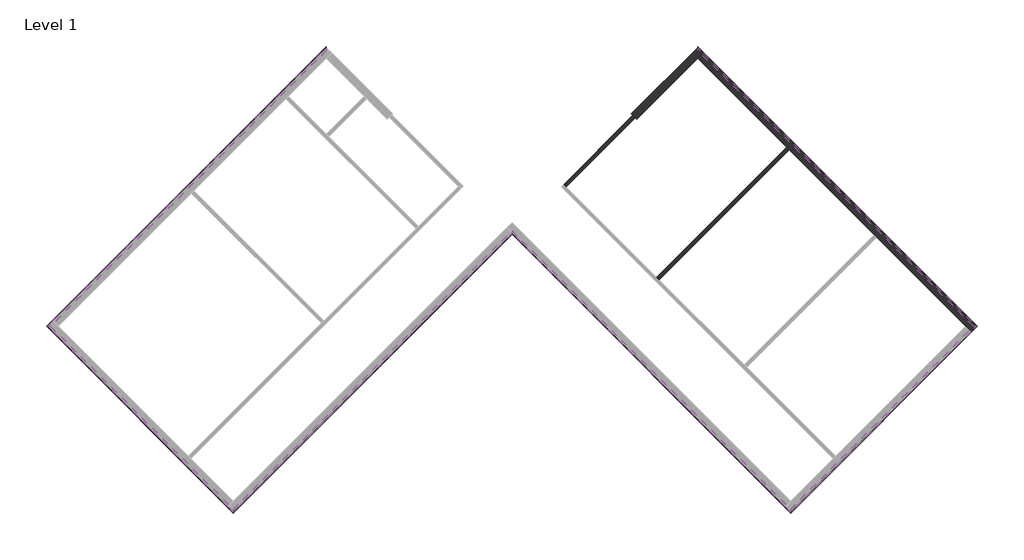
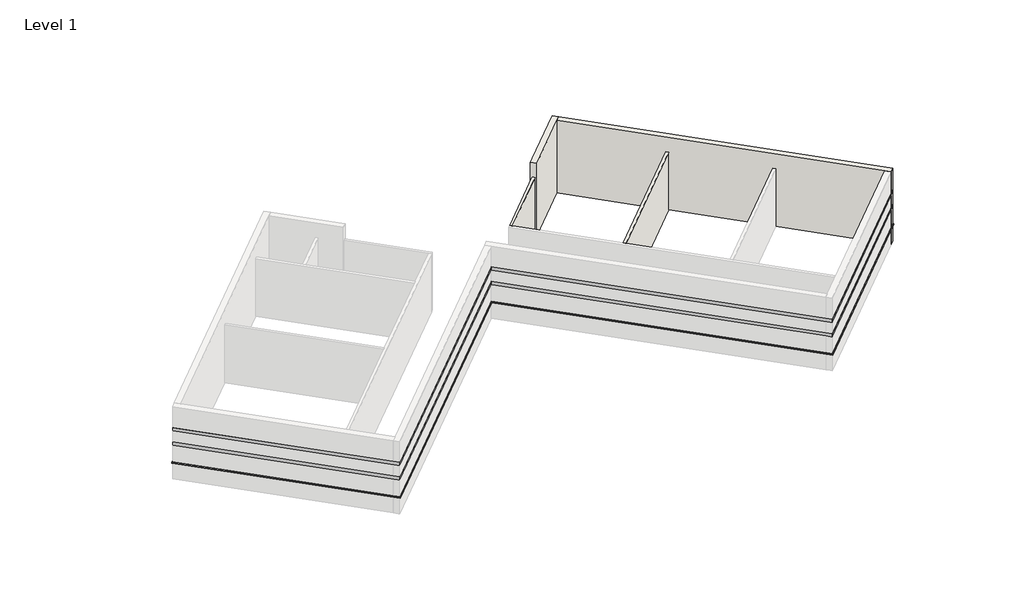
# One storey, part 2 of 2: 18 proxies, 4 walls.
"""IFC4 building model written with IfcOpenShell, lengths in millimetres."""

from ifc_helpers import new_model, si_unit, point, frame, frame_2d, origin, origin_with_axes, place, context, project, spatial, polyline, circle_curve, trimmed, segment, composite_curve, outline, extrude, faceted_brep, element, save
from ifc_brep_helpers import plane_surface, cylinder_surface, revolved_surface, advanced_brep

model = new_model("IFC4")

# Units and contexts
model_context = context("Model", 3, world=origin())
ifc_project = project(units=[si_unit("LENGTHUNIT", "METRE", prefix="MILLI")], contexts=[model_context])

# Site, building, storey
site = spatial("IfcSite", under=ifc_project)
building = spatial("IfcBuilding", under=site)
storey = spatial("IfcBuildingStorey", under=building, Name="Level 1", Elevation=0.0)

# Proxies
placement = place(None, origin())
element("IfcBuildingElementProxy", 1, Name="Wall Sweeps", at=placement, inside=storey, context=model_context, shape_type="Brep", body=[
    faceted_brep([(5753.0175119, 11443.3655905, 1085.85), (5753.0175119, 11573.5793042, 1085.85), (5753.0175119, 11622.9707129, 1041.4), (5753.0175119, 11622.9707129, 1016.0), (5753.0175119, 11443.3655905, 1016.0), (18554.3726125, -1357.9895101, 1085.85), (18554.3726125, -1357.9895101, 1016.0), (18733.9777349, -1357.9895101, 1016.0), (18733.9777349, -1357.9895101, 1041.4), (18684.5863263, -1357.9895101, 1085.85)], [[[0, 1, 2, 3, 4]], [[5, 6, 7, 8, 9]], [[1, 0, 5, 9]], [[2, 1, 9, 8]], [[3, 2, 8, 7]], [[4, 3, 7, 6]], [[0, 4, 6, 5]]]),
])
element("IfcBuildingElementProxy", 2, Name="Wall Sweeps", at=placement, inside=storey, context=model_context, shape_type="Brep", body=[
    faceted_brep([(5753.0175119, 11573.5793042, 2336.8), (5753.0175119, 11573.5793042, 2133.6), (5753.0175119, 11443.3655905, 2133.6), (5753.0175119, 11443.3655905, 2336.8), (18684.5863263, -1357.9895101, 2336.8), (18554.3726125, -1357.9895101, 2336.8), (18554.3726125, -1357.9895101, 2133.6), (18684.5863263, -1357.9895101, 2133.6), (6002.2196193, 11324.3771969, 2336.8), (6002.2196193, 11324.3771969, 2133.6)], [[[0, 1, 2, 3]], [[4, 5, 6, 7]], [[1, 0, 8, 4, 7, 9]], [[2, 1, 9, 7, 6]], [[3, 2, 6, 5]], [[0, 3, 5, 4, 8]]]),
])
element("IfcBuildingElementProxy", 3, Name="Wall Sweeps", at=placement, inside=storey, context=model_context, shape_type="Brep", body=[
    faceted_brep([(5753.0175119, 11573.5793042, 3251.2), (5753.0175119, 11573.5793042, 3048.0), (5753.0175119, 11443.3655905, 3048.0), (5753.0175119, 11443.3655905, 3251.2), (18684.5863263, -1357.9895101, 3251.2), (18554.3726125, -1357.9895101, 3251.2), (18554.3726125, -1357.9895101, 3048.0), (18684.5863263, -1357.9895101, 3048.0), (6002.2196193, 11324.3771969, 3251.2), (6002.2196193, 11324.3771969, 3048.0)], [[[0, 1, 2, 3]], [[4, 5, 6, 7]], [[1, 0, 8, 4, 7, 9]], [[2, 1, 9, 7, 6]], [[3, 2, 6, 5]], [[0, 3, 5, 4, 8]]]),
])
element("IfcBuildingElementProxy", 4, Name="Wall Sweeps", at=placement, inside=storey, context=model_context, shape_type="Brep", body=[
    faceted_brep([(18554.3726125, -1357.9895101, 1085.85), (18684.5863263, -1357.9895101, 1085.85), (18733.9777349, -1357.9895101, 1041.4), (18733.9777349, -1357.9895101, 1016.0), (18554.3726125, -1357.9895101, 1016.0), (10063.54045, -9848.8216726, 1085.85), (10063.54045, -9848.8216726, 1016.0), (10063.54045, -10028.426795, 1016.0), (10063.54045, -10028.426795, 1041.4), (10063.54045, -9979.0353863, 1085.85)], [[[0, 1, 2, 3, 4]], [[5, 6, 7, 8, 9]], [[1, 0, 5, 9]], [[2, 1, 9, 8]], [[3, 2, 8, 7]], [[4, 3, 7, 6]], [[0, 4, 6, 5]]]),
])
element("IfcBuildingElementProxy", 5, Name="Wall Sweeps", at=placement, inside=storey, context=model_context, shape_type="Brep", body=[
    faceted_brep([(18684.5863263, -1357.9895101, 2336.8), (18684.5863263, -1357.9895101, 2133.6), (18554.3726125, -1357.9895101, 2133.6), (18554.3726125, -1357.9895101, 2336.8), (10063.54045, -9979.0353863, 2336.8), (10063.54045, -9848.8216726, 2336.8), (10063.54045, -9848.8216726, 2133.6), (10063.54045, -9979.0353863, 2133.6), (18435.3842189, -1607.1916175, 2336.8), (18435.3842189, -1607.1916175, 2133.6)], [[[0, 1, 2, 3]], [[4, 5, 6, 7]], [[1, 0, 8, 4, 7, 9]], [[2, 1, 9, 7, 6]], [[3, 2, 6, 5]], [[0, 3, 5, 4, 8]]]),
])
element("IfcBuildingElementProxy", 6, Name="Wall Sweeps", at=placement, inside=storey, context=model_context, shape_type="Brep", body=[
    faceted_brep([(18684.5863263, -1357.9895101, 3251.2), (18684.5863263, -1357.9895101, 3048.0), (18554.3726125, -1357.9895101, 3048.0), (18554.3726125, -1357.9895101, 3251.2), (10063.54045, -9979.0353863, 3251.2), (10063.54045, -9848.8216726, 3251.2), (10063.54045, -9848.8216726, 3048.0), (10063.54045, -9979.0353863, 3048.0), (18435.3842189, -1607.1916175, 3251.2), (18435.3842189, -1607.1916175, 3048.0)], [[[0, 1, 2, 3]], [[4, 5, 6, 7]], [[1, 0, 8, 4, 7, 9]], [[2, 1, 9, 7, 6]], [[3, 2, 6, 5]], [[0, 3, 5, 4, 8]]]),
])
element("IfcBuildingElementProxy", 7, Name="Wall Sweeps", at=placement, inside=storey, context=model_context, shape_type="Brep", body=[
    faceted_brep([(10063.54045, -9848.8216726, 1085.85), (10063.54045, -9979.0353863, 1085.85), (10063.54045, -10028.426795, 1041.4), (10063.54045, -10028.426795, 1016.0), (10063.54045, -9848.8216726, 1016.0), (-2868.0283643, 3082.7471418, 1085.85), (-2868.0283643, 3082.7471418, 1016.0), (-2868.0283643, 2903.1420194, 1016.0), (-2868.0283643, 2903.1420194, 1041.4), (-2868.0283643, 2952.533428, 1085.85)], [[[0, 1, 2, 3, 4]], [[5, 6, 7, 8, 9]], [[1, 0, 5, 9]], [[2, 1, 9, 8]], [[3, 2, 8, 7]], [[4, 3, 7, 6]], [[0, 4, 6, 5]]]),
])
element("IfcBuildingElementProxy", 8, Name="Wall Sweeps", at=placement, inside=storey, context=model_context, shape_type="Brep", body=[
    faceted_brep([(10063.54045, -9979.0353863, 2336.8), (10063.54045, -9979.0353863, 2133.6), (10063.54045, -9848.8216726, 2133.6), (10063.54045, -9848.8216726, 2336.8), (-2868.0283643, 2952.533428, 2336.8), (-2868.0283643, 3082.7471418, 2336.8), (-2868.0283643, 3082.7471418, 2133.6), (-2868.0283643, 2952.533428, 2133.6), (9814.3383427, -9729.833279, 2336.8), (9814.3383427, -9729.833279, 2133.6)], [[[0, 1, 2, 3]], [[4, 5, 6, 7]], [[1, 0, 8, 4, 7, 9]], [[2, 1, 9, 7, 6]], [[3, 2, 6, 5]], [[0, 3, 5, 4, 8]]]),
])
element("IfcBuildingElementProxy", 9, Name="Wall Sweeps", at=placement, inside=storey, context=model_context, shape_type="Brep", body=[
    faceted_brep([(10063.54045, -9979.0353863, 3251.2), (10063.54045, -9979.0353863, 3048.0), (10063.54045, -9848.8216726, 3048.0), (10063.54045, -9848.8216726, 3251.2), (-2868.0283643, 2952.533428, 3251.2), (-2868.0283643, 3082.7471418, 3251.2), (-2868.0283643, 3082.7471418, 3048.0), (-2868.0283643, 2952.533428, 3048.0), (9814.3383427, -9729.833279, 3251.2), (9814.3383427, -9729.833279, 3048.0)], [[[0, 1, 2, 3]], [[4, 5, 6, 7]], [[1, 0, 8, 4, 7, 9]], [[2, 1, 9, 7, 6]], [[3, 2, 6, 5]], [[0, 3, 5, 4, 8]]]),
])
element("IfcBuildingElementProxy", 10, Name="Wall Sweeps", at=placement, inside=storey, context=model_context, shape_type="Brep", body=[
    faceted_brep([(-2868.0283643, 3082.7471418, 1085.85), (-2868.0283643, 2952.533428, 1085.85), (-2868.0283643, 2903.1420194, 1041.4), (-2868.0283643, 2903.1420194, 1016.0), (-2868.0283643, 3082.7471418, 1016.0), (-15799.5971786, -9848.8216726, 1085.85), (-15799.5971786, -9848.8216726, 1016.0), (-15799.5971786, -10028.426795, 1016.0), (-15799.5971786, -10028.426795, 1041.4), (-15799.5971786, -9979.0353863, 1085.85)], [[[0, 1, 2, 3, 4]], [[5, 6, 7, 8, 9]], [[1, 0, 5, 9]], [[2, 1, 9, 8]], [[3, 2, 8, 7]], [[4, 3, 7, 6]], [[0, 4, 6, 5]]]),
])
element("IfcBuildingElementProxy", 11, Name="Wall Sweeps", at=placement, inside=storey, context=model_context, shape_type="SweptSolid", body=[
    extrude(outline(polyline([(-2868.0283643, 3082.7471418), (-2868.0283643, 2952.533428), (-15799.5971786, -9979.0353863), (-15799.5971786, -9848.8216726), (-2868.0283643, 3082.7471418)])), frame((0.0, 0.0, 2133.6), z_axis=(0.0, 0.0, 1.0), x_axis=(1.0, 0.0, 0.0)), (0.0, 0.0, 1.0), 203.2),
])
element("IfcBuildingElementProxy", 12, Name="Wall Sweeps", at=placement, inside=storey, context=model_context, shape_type="SweptSolid", body=[
    extrude(outline(polyline([(-2868.0283643, 3082.7471418), (-2868.0283643, 2952.533428), (-15799.5971786, -9979.0353863), (-15799.5971786, -9848.8216726), (-2868.0283643, 3082.7471418)])), frame((0.0, 0.0, 3048.0), z_axis=(0.0, 0.0, 1.0), x_axis=(1.0, 0.0, 0.0)), (0.0, 0.0, 1.0), 203.2),
])
element("IfcBuildingElementProxy", 13, Name="Wall Sweeps", at=placement, inside=storey, context=model_context, shape_type="Brep", body=[
    faceted_brep([(-15799.5971786, -9848.8216726, 1085.85), (-15799.5971786, -9979.0353863, 1085.85), (-15799.5971786, -10028.426795, 1041.4), (-15799.5971786, -10028.426795, 1016.0), (-15799.5971786, -9848.8216726, 1016.0), (-24290.4293411, -1357.9895101, 1085.85), (-24290.4293411, -1357.9895101, 1016.0), (-24470.0344635, -1357.9895101, 1016.0), (-24470.0344635, -1357.9895101, 1041.4), (-24420.6430549, -1357.9895101, 1085.85)], [[[0, 1, 2, 3, 4]], [[5, 6, 7, 8, 9]], [[1, 0, 5, 9]], [[2, 1, 9, 8]], [[3, 2, 8, 7]], [[4, 3, 7, 6]], [[0, 4, 6, 5]]]),
])
element("IfcBuildingElementProxy", 14, Name="Wall Sweeps", at=placement, inside=storey, context=model_context, shape_type="Brep", body=[
    faceted_brep([(-15799.5971786, -9979.0353863, 2336.8), (-15799.5971786, -9979.0353863, 2133.6), (-15799.5971786, -9848.8216726, 2133.6), (-15799.5971786, -9848.8216726, 2336.8), (-24420.6430549, -1357.9895101, 2336.8), (-24290.4293411, -1357.9895101, 2336.8), (-24290.4293411, -1357.9895101, 2133.6), (-24420.6430549, -1357.9895101, 2133.6), (-16048.799286, -9729.833279, 2336.8), (-16048.799286, -9729.833279, 2133.6)], [[[0, 1, 2, 3]], [[4, 5, 6, 7]], [[1, 0, 8, 4, 7, 9]], [[2, 1, 9, 7, 6]], [[3, 2, 6, 5]], [[0, 3, 5, 4, 8]]]),
])
element("IfcBuildingElementProxy", 15, Name="Wall Sweeps", at=placement, inside=storey, context=model_context, shape_type="Brep", body=[
    faceted_brep([(-15799.5971786, -9979.0353863, 3251.2), (-15799.5971786, -9979.0353863, 3048.0), (-15799.5971786, -9848.8216726, 3048.0), (-15799.5971786, -9848.8216726, 3251.2), (-24420.6430549, -1357.9895101, 3251.2), (-24290.4293411, -1357.9895101, 3251.2), (-24290.4293411, -1357.9895101, 3048.0), (-24420.6430549, -1357.9895101, 3048.0), (-16048.799286, -9729.833279, 3251.2), (-16048.799286, -9729.833279, 3048.0)], [[[0, 1, 2, 3]], [[4, 5, 6, 7]], [[1, 0, 8, 4, 7, 9]], [[2, 1, 9, 7, 6]], [[3, 2, 6, 5]], [[0, 3, 5, 4, 8]]]),
])
element("IfcBuildingElementProxy", 16, Name="Wall Sweeps", at=placement, inside=storey, context=model_context, shape_type="Brep", body=[
    faceted_brep([(-24290.4293411, -1357.9895101, 1085.85), (-24420.6430549, -1357.9895101, 1085.85), (-24470.0344635, -1357.9895101, 1041.4), (-24470.0344635, -1357.9895101, 1016.0), (-24290.4293411, -1357.9895101, 1016.0), (-11489.0742405, 11443.3655905, 1085.85), (-11489.0742405, 11443.3655905, 1016.0), (-11489.0742405, 11622.9707129, 1016.0), (-11489.0742405, 11622.9707129, 1041.4), (-11489.0742405, 11573.5793042, 1085.85)], [[[0, 1, 2, 3, 4]], [[5, 6, 7, 8, 9]], [[1, 0, 5, 9]], [[2, 1, 9, 8]], [[3, 2, 8, 7]], [[4, 3, 7, 6]], [[0, 4, 6, 5]]]),
])
element("IfcBuildingElementProxy", 17, Name="Wall Sweeps", at=placement, inside=storey, context=model_context, shape_type="Brep", body=[
    faceted_brep([(-24420.6430549, -1357.9895101, 2336.8), (-24420.6430549, -1357.9895101, 2133.6), (-24290.4293411, -1357.9895101, 2133.6), (-24290.4293411, -1357.9895101, 2336.8), (-11489.0742405, 11573.5793042, 2336.8), (-11489.0742405, 11443.3655905, 2336.8), (-11489.0742405, 11443.3655905, 2133.6), (-11489.0742405, 11573.5793042, 2133.6), (-24171.4409475, -1108.7874027, 2336.8), (-24171.4409475, -1108.7874027, 2133.6)], [[[0, 1, 2, 3]], [[4, 5, 6, 7]], [[1, 0, 8, 4, 7, 9]], [[2, 1, 9, 7, 6]], [[3, 2, 6, 5]], [[0, 3, 5, 4, 8]]]),
])
element("IfcBuildingElementProxy", 18, Name="Wall Sweeps", at=placement, inside=storey, context=model_context, shape_type="Brep", body=[
    faceted_brep([(-24420.6430549, -1357.9895101, 3251.2), (-24420.6430549, -1357.9895101, 3048.0), (-24290.4293411, -1357.9895101, 3048.0), (-24290.4293411, -1357.9895101, 3251.2), (-11489.0742405, 11573.5793042, 3251.2), (-11489.0742405, 11443.3655905, 3251.2), (-11489.0742405, 11443.3655905, 3048.0), (-11489.0742405, 11573.5793042, 3048.0), (-24171.4409475, -1108.7874027, 3251.2), (-24171.4409475, -1108.7874027, 3048.0)], [[[0, 1, 2, 3]], [[4, 5, 6, 7]], [[1, 0, 8, 4, 7, 9]], [[2, 1, 9, 7, 6]], [[3, 2, 6, 5]], [[0, 3, 5, 4, 8]]]),
])

# Walls
element("IfcWall", 19, ObjectType="Exterior - Split Face and CMU on Mtl. Stud", at=placement, inside=storey, context=model_context, shape_type="AdvancedBrep", body=[
    advanced_brep(
    [(2921.9555443, 8244.1131219, 0.0), (5753.0175119, 11075.1750895, 0.0), (6002.2196193, 11324.3771969, 0.0), (6002.2196193, 11324.3771969, 1016.0), (5937.1127624, 11259.27034, 1016.0), (5937.1127624, 11259.27034, 1085.85), (6002.2196193, 11324.3771969, 1085.85), (6002.2196193, 11324.3771969, 2133.6), (5937.1127624, 11259.27034, 2133.6), (5937.1127624, 11259.27034, 2336.8), (6002.2196193, 11324.3771969, 2336.8), (6002.2196193, 11324.3771969, 3048.0), (5937.1127624, 11259.27034, 3048.0), (5937.1127624, 11259.27034, 3251.2), (6002.2196193, 11324.3771969, 3251.2), (6002.2196193, 11324.3771969, 4572.0), (5753.0175119, 11075.1750895, 4572.0), (2921.9555443, 8244.1131219, 4572.0), (2677.2250436, 8497.7868359, 4572.0), (2926.4294954, 8746.9912878, 4572.0), (5753.0175119, 11573.5793042, 4572.0), (5753.0175119, 11573.5793042, 3251.2), (2926.4294954, 8746.9912878, 3251.2), (2861.3220456, 8681.8838379, 3251.2), (2861.3220456, 8681.8838379, 3048.0), (2926.4294954, 8746.9912878, 3048.0), (5753.0175119, 11573.5793042, 3048.0), (5753.0175119, 11573.5793042, 2336.8), (2926.4294954, 8746.9912878, 2336.8), (2861.3220456, 8681.8838379, 2336.8), (2861.3220456, 8681.8838379, 2133.6), (2926.4294954, 8746.9912878, 2133.6), (5753.0175119, 11573.5793042, 2133.6), (5753.0175119, 11573.5793042, 1085.85), (2926.4294954, 8746.9912878, 1085.85), (2861.3220456, 8681.8838379, 1085.85), (2861.3220456, 8681.8838379, 1016.0), (2926.4294954, 8746.9912878, 1016.0), (5753.0175119, 11573.5793042, 1016.0), (5753.0175119, 11573.5793042, 0.0), (2926.4294954, 8746.9912878, 0.0), (2677.2250436, 8497.7868359, 0.0), (5818.1243688, 11508.4724474, 0.0), (2742.2400511, 8432.5881297, 0.0), (2746.6957919, 8428.0636143, 0.0), (2854.7303749, 8316.0819224, 0.0), (5753.0175119, 11443.3655905, 1085.85), (2926.3399919, 8616.6880705, 1085.85), (2926.3399919, 8616.6880705, 1016.0), (5753.0175119, 11443.3655905, 1016.0), (2926.3399919, 8616.6880705, 2133.6), (5753.0175119, 11443.3655905, 2133.6), (2926.3399919, 8616.6880705, 2336.8), (5753.0175119, 11443.3655905, 2336.8), (2926.3399919, 8616.6880705, 3048.0), (5753.0175119, 11443.3655905, 3048.0), (2926.3399919, 8616.6880705, 3251.2), (5753.0175119, 11443.3655905, 3251.2)],
    [
        (0, 1),
        (1, 2),
        (2, 3),
        (3, 4),
        (4, 5),
        (5, 6),
        (6, 7),
        (7, 8),
        (8, 9),
        (9, 10),
        (10, 11),
        (11, 12),
        (12, 13),
        (13, 14),
        (14, 15),
        (15, 16),
        (16, 17),
        (17, 0),
        (18, 19),
        (19, 20),
        (20, 21),
        (21, 22),
        (22, 23),
        (23, 24),
        (24, 25),
        (25, 26),
        (26, 27),
        (27, 28),
        (28, 29),
        (29, 30),
        (30, 31),
        (31, 32),
        (32, 33),
        (33, 34),
        (34, 35),
        (35, 36),
        (36, 37),
        (37, 38),
        (38, 39),
        (39, 40),
        (40, 41),
        (41, 18),
        (15, 20),
        (18, 17, circle_curve(frame((-2868.0283643, 2903.1420194, 4572.0), z_axis=(0.0, 0.0, -1.0), x_axis=(1.0, 0.0, 0.0)), 7877.175)),
        (14, 21),
        (2, 42),
        (42, 39),
        (38, 3),
        (6, 33),
        (32, 7),
        (10, 27),
        (26, 11),
        (41, 43, circle_curve(frame((-2868.0283643, 2903.1420194, 0.0), z_axis=(0.0, 0.0, -1.0), x_axis=(1.0, 0.0, 0.0)), 7877.175)),
        (43, 44, circle_curve(frame((-2868.0283643, 2903.1420194, 0.0), z_axis=(0.0, 0.0, -1.0), x_axis=(1.0, 0.0, 0.0)), 7877.175)),
        (44, 45, circle_curve(frame((-2868.0283643, 2903.1420194, 0.0), z_axis=(0.0, 0.0, -1.0), x_axis=(1.0, 0.0, 0.0)), 7877.175)),
        (45, 0, circle_curve(frame((-2868.0283643, 2903.1420194, 0.0), z_axis=(0.0, 0.0, -1.0), x_axis=(1.0, 0.0, 0.0)), 7877.175)),
        (43, 42),
        (46, 47),
        (47, 35, circle_curve(frame((-2868.0283643, 2903.1420194, 1085.85), z_axis=(0.0, 0.0, 1.0), x_axis=(-0.7040995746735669, 0.7101012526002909, 0.0)), 8137.525)),
        (5, 46),
        (48, 49),
        (49, 4),
        (36, 48, circle_curve(frame((-2868.0283643, 2903.1420194, 1016.0), z_axis=(0.0, 0.0, -1.0), x_axis=(-0.7040995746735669, 0.7101012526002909, 0.0)), 8137.525)),
        (47, 48),
        (46, 49),
        (50, 51),
        (51, 8),
        (30, 50, circle_curve(frame((-2868.0283643, 2903.1420194, 2133.6), z_axis=(0.0, 0.0, -1.0), x_axis=(-0.7040995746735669, 0.7101012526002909, 0.0)), 8137.525)),
        (52, 50),
        (29, 52, circle_curve(frame((-2868.0283643, 2903.1420194, 2336.8), z_axis=(0.0, 0.0, -1.0), x_axis=(-0.7040995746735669, 0.7101012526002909, 0.0)), 8137.525)),
        (53, 52),
        (9, 53),
        (53, 51),
        (54, 55),
        (55, 12),
        (24, 54, circle_curve(frame((-2868.0283643, 2903.1420194, 3048.0), z_axis=(0.0, 0.0, -1.0), x_axis=(-0.7040995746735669, 0.7101012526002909, 0.0)), 8137.525)),
        (56, 54),
        (23, 56, circle_curve(frame((-2868.0283643, 2903.1420194, 3251.2), z_axis=(0.0, 0.0, -1.0), x_axis=(-0.7040995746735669, 0.7101012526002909, 0.0)), 8137.525)),
        (57, 56),
        (13, 57),
        (57, 55),
    ],
    [
        plane_surface(frame((2984.8535626, 8307.0111402, 0.0), z_axis=(0.707106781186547, -0.7071067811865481, 0.0), x_axis=(0.7071067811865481, 0.707106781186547, 0.0))),
        plane_surface(frame((2735.6514552, 8556.2132476, 0.0), z_axis=(-0.707106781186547, 0.7071067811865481, 0.0), x_axis=(-0.7071067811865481, -0.707106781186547, 0.0))),
        plane_surface(frame((5877.6185656, 11199.7761432, 4572.0), z_axis=(0.0, 0.0, 1.0), x_axis=(-0.707106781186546, 0.7071067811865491, 0.0))),
        plane_surface(frame((5753.0175119, 11573.5793042, 0.0), z_axis=(0.7071067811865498, 0.7071067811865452, 0.0), x_axis=(-0.7071067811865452, 0.7071067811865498, 0.0))),
        revolved_surface(polyline([(5009.146635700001, 2903.1420194, 0.0), (5009.146635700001, 2903.1420194, 4572.0)]), (-2868.0283643, 2903.1420194, 0.0), (0.0, 0.0, -1.0)),
        plane_surface(frame((3050.2065213, 8372.3640989, 0.0), z_axis=(0.0, 0.0, -1.0000000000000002), x_axis=(-0.7071067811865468, 0.7071067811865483, 0.0))),
        plane_surface(frame((0.0, 0.0, 0.0), z_axis=(0.0, 0.0, -1.0), x_axis=(1.0, 0.0, 0.0))),
        plane_surface(frame((-2868.0283643, 2903.1420194, 1085.85), z_axis=(0.0, 0.0, -1.0), x_axis=(-0.7040995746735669, 0.7101012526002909, 0.0))),
        plane_surface(frame((-2868.0283643, 2903.1420194, 1016.0), z_axis=(0.0, 0.0, 1.0), x_axis=(-0.7040995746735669, 0.7101012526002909, 0.0))),
        cylinder_surface(frame((-2868.0283643, 2903.1420194, 1016.0), z_axis=(0.0, 0.0, -1.0), x_axis=(-0.7040995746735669, 0.7101012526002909, 0.0)), 8137.525),
        plane_surface(frame((2926.3399919, 8616.6880705, 1016.0), z_axis=(-0.7071067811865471, 0.707106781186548, 0.0), x_axis=(0.707106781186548, 0.7071067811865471, 0.0))),
        plane_surface(frame((5753.0175119, 11443.3655905, 1016.0), z_axis=(0.7071067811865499, 0.7071067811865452, 0.0), x_axis=(0.7071067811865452, -0.7071067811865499, 0.0))),
        plane_surface(frame((-2868.0283643, 2903.1420194, 2133.6), z_axis=(0.0, 0.0, 1.0), x_axis=(-0.7040995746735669, 0.7101012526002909, 0.0))),
        cylinder_surface(frame((-2868.0283643, 2903.1420194, 2133.6), z_axis=(0.0, 0.0, -1.0), x_axis=(-0.7040995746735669, 0.7101012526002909, 0.0)), 8137.525),
        plane_surface(frame((-2868.0283643, 2903.1420194, 2336.8), z_axis=(0.0, 0.0, -1.0), x_axis=(-0.7040995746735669, 0.7101012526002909, 0.0))),
        plane_surface(frame((2926.3399919, 8616.6880705, 2133.6), z_axis=(-0.7071067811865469, 0.7071067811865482, 0.0), x_axis=(0.7071067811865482, 0.7071067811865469, 0.0))),
        plane_surface(frame((5753.0175119, 11443.3655905, 2133.6), z_axis=(0.7071067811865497, 0.7071067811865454, 0.0), x_axis=(0.7071067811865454, -0.7071067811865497, 0.0))),
        plane_surface(frame((-2868.0283643, 2903.1420194, 3048.0), z_axis=(0.0, 0.0, 1.0), x_axis=(-0.7040995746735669, 0.7101012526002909, 0.0))),
        cylinder_surface(frame((-2868.0283643, 2903.1420194, 3048.0), z_axis=(0.0, 0.0, -1.0), x_axis=(-0.7040995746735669, 0.7101012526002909, 0.0)), 8137.525),
        plane_surface(frame((-2868.0283643, 2903.1420194, 3251.2), z_axis=(0.0, 0.0, -1.0), x_axis=(-0.7040995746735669, 0.7101012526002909, 0.0))),
        plane_surface(frame((2926.3399919, 8616.6880705, 3048.0), z_axis=(-0.7071067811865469, 0.7071067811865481, 0.0), x_axis=(0.7071067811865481, 0.7071067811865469, 0.0))),
        plane_surface(frame((5753.0175119, 11443.3655905, 3048.0), z_axis=(0.7071067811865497, 0.7071067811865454, 0.0), x_axis=(0.7071067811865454, -0.7071067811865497, 0.0))),
    ],
    [
        (0, [[1, 2, 3, 4, 5, 6, 7, 8, 9, 10, 11, 12, 13, 14, 15, 16, 17, 18]]),
        (1, [[19, 20, 21, 22, 23, 24, 25, 26, 27, 28, 29, 30, 31, 32, 33, 34, 35, 36, 37, 38, 39, 40, 41, 42]]),
        (2, [[-17, -16, 43, -20, -19, 44]]),
        (3, [[-43, -15, 45, -21]]),
        (3, [[46, 47, -39, 48, -3]]),
        (3, [[49, -33, 50, -7]]),
        (3, [[51, -27, 52, -11]]),
        (4, [[-44, -42, 53, 54, 55, 56, -18]]),
        (5, [[-2, -1, -56, -55, -54, 57, -46]]),
        (6, [[-53, -41, -40, -47, -57]]),
        (7, [[58, 59, -35, -34, -49, -6, 60]]),
        (8, [[61, 62, -4, -48, -38, -37, 63]]),
        (9, [[64, -63, -36, -59]]),
        (10, [[-58, 65, -61, -64]]),
        (11, [[-65, -60, -5, -62]]),
        (12, [[66, 67, -8, -50, -32, -31, 68]]),
        (13, [[69, -68, -30, 70]]),
        (14, [[71, -70, -29, -28, -51, -10, 72]]),
        (15, [[-66, -69, -71, 73]]),
        (16, [[-73, -72, -9, -67]]),
        (17, [[74, 75, -12, -52, -26, -25, 76]]),
        (18, [[77, -76, -24, 78]]),
        (19, [[79, -78, -23, -22, -45, -14, 80]]),
        (20, [[-74, -77, -79, 81]]),
        (21, [[-81, -80, -13, -75]]),
    ],
),
])
element("IfcWall", 20, ObjectType="Exterior - Split Face and CMU on Mtl. Stud", at=placement, inside=storey, context=model_context, shape_type="Brep", body=[
    faceted_brep([(5753.0175119, 11075.1750895, 0.0), (9883.9353276, 6944.2572738, 0.0), (9993.9434651, 6834.2491364, 0.0), (13945.2561584, 2882.9364431, 0.0), (14055.2642958, 2772.9283056, 0.0), (18186.1821115, -1357.9895101, 0.0), (18435.3842189, -1607.1916175, 0.0), (18435.3842189, -1607.1916175, 1016.0), (18370.277362, -1542.0847606, 1016.0), (18370.277362, -1542.0847606, 1085.85), (18435.3842189, -1607.1916175, 1085.85), (18435.3842189, -1607.1916175, 2133.6), (18370.277362, -1542.0847606, 2133.6), (18370.277362, -1542.0847606, 2336.8), (18435.3842189, -1607.1916175, 2336.8), (18435.3842189, -1607.1916175, 3048.0), (18370.277362, -1542.0847606, 3048.0), (18370.277362, -1542.0847606, 3251.2), (18435.3842189, -1607.1916175, 3251.2), (18435.3842189, -1607.1916175, 4572.0), (18186.1821115, -1357.9895101, 4572.0), (5753.0175119, 11075.1750895, 4572.0), (6002.2196193, 11324.3771969, 4572.0), (18684.5863263, -1357.9895101, 4572.0), (18684.5863263, -1357.9895101, 3251.2), (6002.2196193, 11324.3771969, 3251.2), (18684.5863263, -1357.9895101, 0.0), (6002.2196193, 11324.3771969, 0.0), (6002.2196193, 11324.3771969, 1016.0), (18684.5863263, -1357.9895101, 1016.0), (18684.5863263, -1357.9895101, 1085.85), (6002.2196193, 11324.3771969, 1085.85), (6002.2196193, 11324.3771969, 2133.6), (18684.5863263, -1357.9895101, 2133.6), (18684.5863263, -1357.9895101, 2336.8), (6002.2196193, 11324.3771969, 2336.8), (6002.2196193, 11324.3771969, 3048.0), (18684.5863263, -1357.9895101, 3048.0), (18619.4794694, -1423.096367, 0.0), (5937.1127624, 11259.27034, 3251.2), (5937.1127624, 11259.27034, 3048.0), (5937.1127624, 11259.27034, 2336.8), (5937.1127624, 11259.27034, 2133.6), (5937.1127624, 11259.27034, 1085.85), (5937.1127624, 11259.27034, 1016.0), (5937.1127624, 11259.27034, 0.0), (18554.3726125, -1357.9895101, 1085.85), (18554.3726125, -1357.9895101, 1016.0), (18554.3726125, -1357.9895101, 2133.6), (18554.3726125, -1357.9895101, 2336.8), (18554.3726125, -1357.9895101, 3048.0), (18554.3726125, -1357.9895101, 3251.2)], [[[0, 1, 2, 3, 4, 5, 6, 7, 8, 9, 10, 11, 12, 13, 14, 15, 16, 17, 18, 19, 20, 21]], [[22, 23, 24, 25]], [[26, 27, 28, 29]], [[30, 31, 32, 33]], [[34, 35, 36, 37]], [[21, 20, 19, 23, 22]], [[23, 19, 18, 24]], [[6, 38, 26, 29, 7]], [[10, 30, 33, 11]], [[14, 34, 37, 15]], [[0, 21, 22, 25, 39, 40, 36, 35, 41, 42, 32, 31, 43, 44, 28, 27, 45]], [[6, 5, 4, 3, 2, 1, 0, 45, 38]], [[45, 27, 26, 38]], [[9, 46, 43, 31, 30, 10]], [[44, 47, 8, 7, 29, 28]], [[46, 47, 44, 43]], [[47, 46, 9, 8]], [[42, 48, 12, 11, 33, 32]], [[13, 49, 41, 35, 34, 14]], [[49, 48, 42, 41]], [[48, 49, 13, 12]], [[40, 50, 16, 15, 37, 36]], [[17, 51, 39, 25, 24, 18]], [[51, 50, 40, 39]], [[50, 51, 17, 16]]]),
])
element("IfcWall", 21, ObjectType="Interior - 6 1/8\" Partition (2-hr)", at=placement, inside=storey, context=model_context, shape_type="SweptSolid", body=[
    extrude(outline(polyline([(3846.9581502, 907.2800964), (9883.9353276, 6944.2572738), (9993.9434651, 6834.2491364), (3956.9662877, 797.271959), (3846.9581502, 907.2800964)])), origin_with_axes(), (0.0, 0.0, 1.0), 3657.6),
])
element("IfcWall", 22, ObjectType="Interior - 6 1/8\" Partition (2-hr)", at=placement, inside=storey, context=model_context, shape_type="SweptSolid", body=[
    extrude(outline(composite_curve([segment(polyline([(-463.5647879, 5217.8030346), (2746.6957919, 8428.0636143)]), True, "CONTINUOUS"), segment(trimmed(circle_curve(frame_2d((-2868.0283643, 2903.1420194)), 7877.175), [point((2746.6957919, 8428.0636143))], [point((2854.7303749, 8316.0819224))], False, "CARTESIAN"), True, "CONTINUOUS"), segment(polyline([(2854.7303749, 8316.0819224), (-353.5566504, 5107.7948971), (-463.5647879, 5217.8030346)]), True, "CONTINUOUS")], self_intersect=False)), origin_with_axes(), (0.0, 0.0, 1.0), 3657.6),
])

save(model, "model.ifc")
